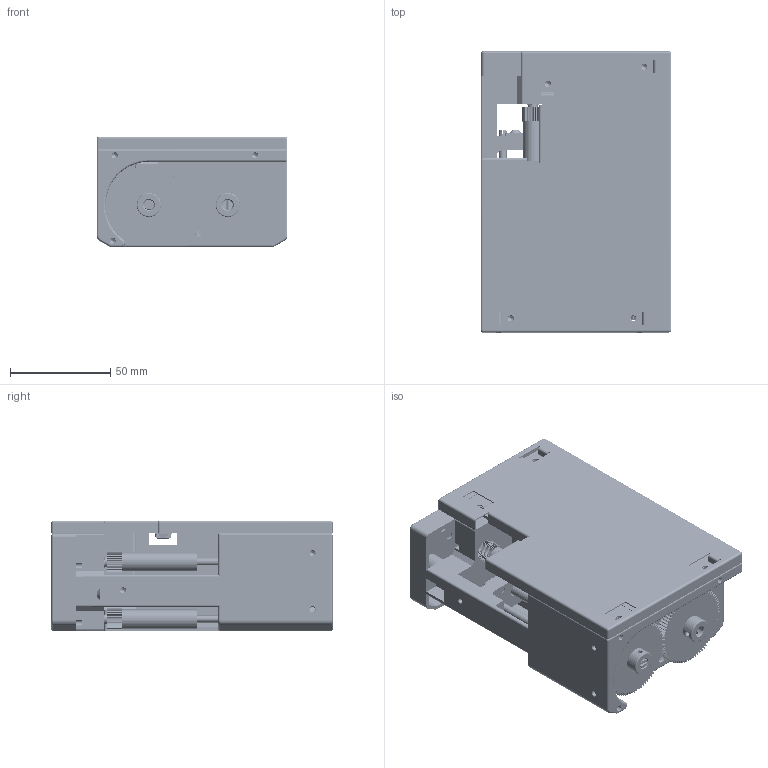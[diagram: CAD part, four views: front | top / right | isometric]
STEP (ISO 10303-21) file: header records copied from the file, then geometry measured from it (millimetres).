
FILE_DESCRIPTION (( 'STEP AP214' ), '1' );
FILE_NAME ('VSP_marketing CAD.STEP', '2022-03-18T05:46:19', ( '' ), ( '' ), 'SwSTEP 2.0', 'SolidWorks 2020', '' );
FILE_SCHEMA (( 'AUTOMOTIVE_DESIGN' ));
Length unit declared in the file: millimetre
Products named in the file (1): VSP_marketing CAD
Bounding box: 95 x 140 x 55.15 mm (x, y, z)
Volume: 202423.4 mm3; surface area: 152456 mm2
Topology: 6 solids, 15 shells, 5911 faces, 16810 edges, 10986 vertices
Faces by surface type: plane 2441, cylinder 2245, bspline 920, cone 291, torus 7, sphere 7
Entity records: 246615 total; most frequent: CARTESIAN_POINT 96557, ORIENTED_EDGE 33472, DIRECTION 28717, EDGE_CURVE 16736, VERTEX_POINT 10985, LINE 9975, VECTOR 9975, AXIS2_PLACEMENT_3D 9371
